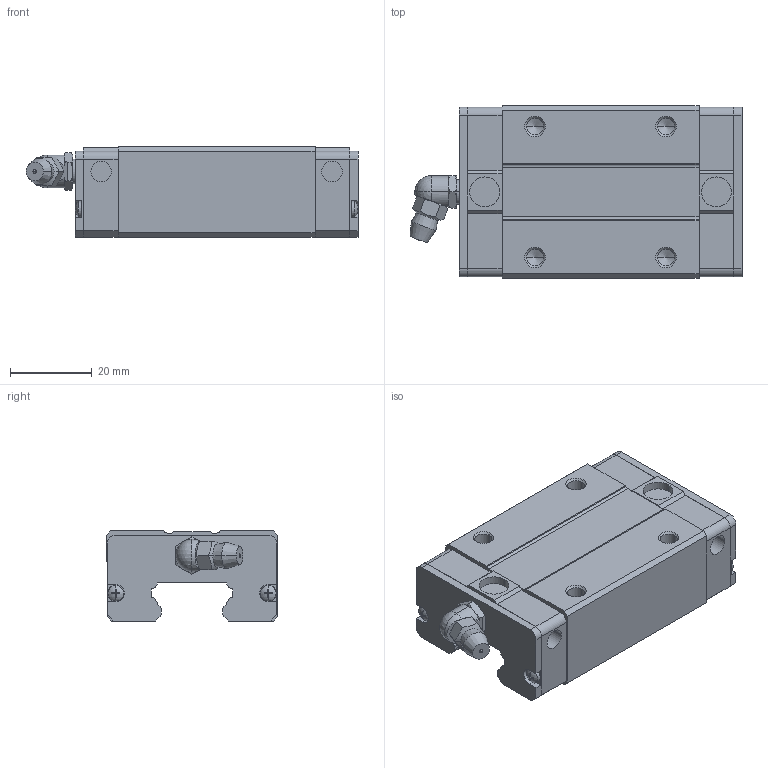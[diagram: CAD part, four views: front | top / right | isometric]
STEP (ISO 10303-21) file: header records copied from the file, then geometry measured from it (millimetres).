
FILE_DESCRIPTION(('starvars output'),'2;1');
FILE_NAME('cv20190609225214000173997.stp','22:52:14 2019/06/09',( 'Thomas Industrial Network Germany GmbH'),( 'Thomas Industrial Network Germany GmbH'),'unknown preprocess','ACIS' ,'unknown authorization');
FILE_SCHEMA(('CONFIG_CONTROL_DESIGN {UNKNOWN IMPLEMENTATION LEVEL}'));
Length unit declared in the file: millimetre
Products named in the file (10): PRODUCT_ID_1; PRODUCT_ID_2; PRODUCT_ID_3; PRODUCT_ID_4; PRODUCT_ID_5; PRODUCT_ID_6; PRODUCT_ID_7; PRODUCT_ID_8; PRODUCT_ID_9; PRODUCT_ID_10
Bounding box: 81.1 x 42 x 22 mm (x, y, z)
Volume: 50296.5 mm3; surface area: 19114 mm2
Topology: 10 solids, 10 shells, 421 faces, 1100 edges, 704 vertices
Faces by surface type: plane 214, cylinder 131, cone 64, sphere 12
Entity records: 12598 total; most frequent: ORIENTED_EDGE 2176, CARTESIAN_POINT 2066, DIRECTION 1861, EDGE_CURVE 1088, VERTEX_POINT 704, AXIS2_PLACEMENT_3D 625, VECTOR 611, LINE 611
